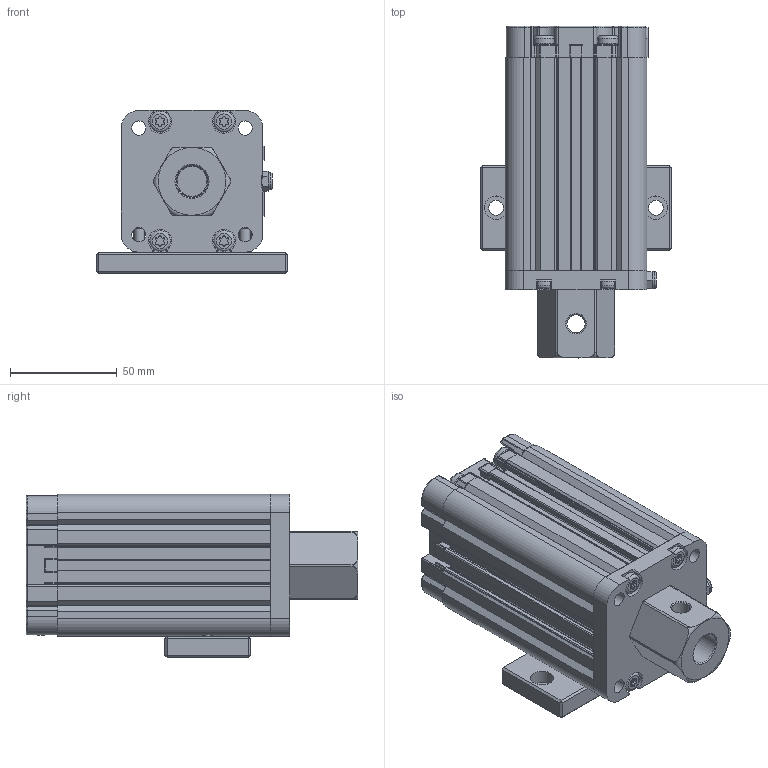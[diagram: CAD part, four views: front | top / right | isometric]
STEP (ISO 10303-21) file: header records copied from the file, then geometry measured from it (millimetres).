
FILE_DESCRIPTION(/* description */ ('Niederdruckzylinder'),/* implementation_level */ '2;1');
FILE_NAME(/* name */ 'N:\CAD\ARCHIV\1410\1410.10.00\ALU Variante\3D Modell für Kuden\1410.10.00 Alu K.stp',/* time_stamp */ '2019-04-09T13:22:08+02:00',/* author */ ('hwalkhoff'),/* organization */ (''),/* preprocessor_version */ 'ST-DEVELOPER v15.2',/* originating_system */ 'Autodesk Inventor 2014',/* authorisation */ '');
FILE_SCHEMA (('CONFIG_CONTROL_DESIGN'));
Length unit declared in the file: millimetre
Products named in the file (9): Niederdruckzylinder 50; Grundpatte; DIN 912 - M5 x 0,8 x 16 x 14; Aufnahmedeckel K; Deckel; Schraube; Schalldämpfer M5; Hochduckzylinder K; 1410.10.00 Alu K
Bounding box: 90 x 155.6 x 76.5 mm (x, y, z)
Volume: 284839.3 mm3; surface area: 149453.7 mm2
Topology: 16 solids, 17 shells, 1065 faces, 2754 edges, 1753 vertices
Faces by surface type: cylinder 517, plane 404, torus 54, cone 39, sphere 36, bspline 15
Full cylindrical faces by diameter (mm): 0.2 x36, 0.3 x15, 2.7 x1, 4.134 x1, 4.4 x1, 5 x5, 5.4 x1, 5.5 x2, 5.9 x8, 6 x1, 6.3 x9, 6.5 x2, 6.647 x8, 7 x2, 7.4 x1, 7.9 x1, 8.5 x2, 8.566 x3, 9.8 x8, 10 x2, 11 x2, 14 x1, 14.4 x1, 14.95 x1, 16.7 x1, 18.3 x1, 20 x1, 23 x1, 26 x2, 28 x1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
Entity records: 28960 total; most frequent: CARTESIAN_POINT 6859, DIRECTION 4699, ORIENTED_EDGE 4288, EDGE_CURVE 2144, AXIS2_PLACEMENT_3D 1742, VERTEX_POINT 1431, EDGE_LOOP 1231, LINE 1215
